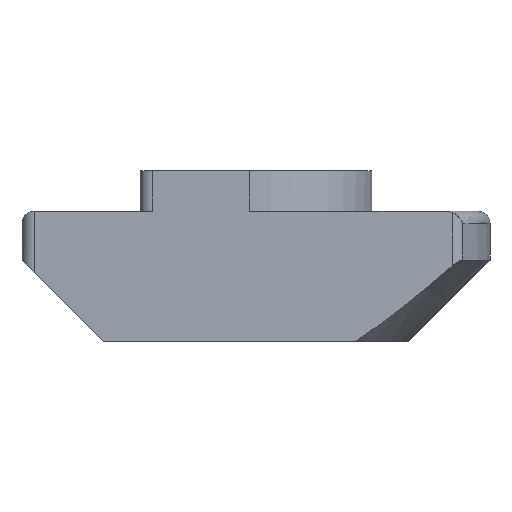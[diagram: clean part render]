
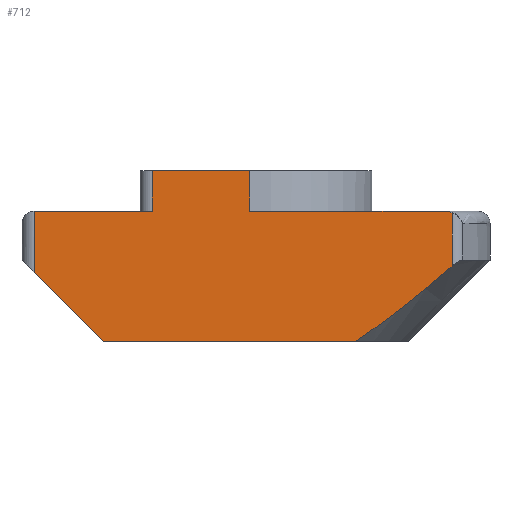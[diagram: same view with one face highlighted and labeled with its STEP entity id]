
A CAD part, front view. The second image highlights one B-rep face of the part: STEP entity #712.
In plain terms, the highlighted planar face has unit normal (0, -1, 0).
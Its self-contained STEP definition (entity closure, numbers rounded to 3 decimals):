
#45 = CARTESIAN_POINT ( 'NONE',  ( 4.817, -2.85, 1.847 ) ) ;
#46 = CARTESIAN_POINT ( 'NONE',  ( 4.436, -2.85, 1.519 ) ) ;
#48 = CARTESIAN_POINT ( 'NONE',  ( 4.05, -2.85, 1.197 ) ) ;
#52 = CARTESIAN_POINT ( 'NONE',  ( 3.262, -2.85, 0.575 ) ) ;
#54 = CARTESIAN_POINT ( 'NONE',  ( 2.86, -2.85, 0.275 ) ) ;
#56 = CARTESIAN_POINT ( 'NONE',  ( 2.437, -2.85, 0. ) ) ;
#69 = CARTESIAN_POINT ( 'NONE',  ( -2.55, -2.85, 4.2 ) ) ;
#74 = DIRECTION ( 'NONE',  ( 0., 0., 1. ) ) ;
#78 = CARTESIAN_POINT ( 'NONE',  ( 4.764, -2.85, 3.187 ) ) ;
#88 = CARTESIAN_POINT ( 'NONE',  ( -0.15, -2.85, 3.2 ) ) ;
#139 = DIRECTION ( 'NONE',  ( 0.707, 0., -0.707 ) ) ;
#145 = CARTESIAN_POINT ( 'NONE',  ( 2.437, -2.85, 0. ) ) ;
#151 = CARTESIAN_POINT ( 'NONE',  ( -5.75, -2.85, 3.2 ) ) ;
#160 = DIRECTION ( 'NONE',  ( 0., 0., -1. ) ) ;
#175 = CARTESIAN_POINT ( 'NONE',  ( -5.75, -2.85, 2. ) ) ;
#194 = CARTESIAN_POINT ( 'NONE',  ( -0.15, -2.85, 4.2 ) ) ;
#205 = CARTESIAN_POINT ( 'NONE',  ( -2.55, -2.85, 3.2 ) ) ;
#236 = CARTESIAN_POINT ( 'NONE',  ( 4.817, -2.85, 3.162 ) ) ;
#252 = DIRECTION ( 'NONE',  ( 1., 0., 0. ) ) ;
#254 = DIRECTION ( 'NONE',  ( 0., 0., 1. ) ) ;
#259 = CARTESIAN_POINT ( 'NONE',  ( -2.55, -2.85, 3.2 ) ) ;
#272 = CARTESIAN_POINT ( 'NONE',  ( -2.85, -2.85, 4.2 ) ) ;
#275 = CARTESIAN_POINT ( 'NONE',  ( 4.817, -2.85, 1.847 ) ) ;
#315 = DIRECTION ( 'NONE',  ( 0., 0., -1. ) ) ;
#324 = DIRECTION ( 'NONE',  ( 1., 0., 0. ) ) ;
#325 = CARTESIAN_POINT ( 'NONE',  ( -5.75, -2.85, 3.2 ) ) ;
#326 = DIRECTION ( 'NONE',  ( 1., 0., 0. ) ) ;
#327 = CARTESIAN_POINT ( 'NONE',  ( -5.75, -2.85, 0. ) ) ;
#340 = PLANE ( 'NONE',  #1131 ) ;
#343 = CARTESIAN_POINT ( 'NONE',  ( -5.45, -2.85, 3.2 ) ) ;
#374 = DIRECTION ( 'NONE',  ( 0., 0., -1. ) ) ;
#375 = DIRECTION ( 'NONE',  ( 0., 1., 0. ) ) ;
#378 = CARTESIAN_POINT ( 'NONE',  ( 4.817, -2.85, 3.2 ) ) ;
#421 = CARTESIAN_POINT ( 'NONE',  ( 4.645, -2.85, 3.2 ) ) ;
#422 = CARTESIAN_POINT ( 'NONE',  ( 4.705, -2.85, 3.2 ) ) ;
#425 = CARTESIAN_POINT ( 'NONE',  ( -5.45, -2.85, 1.7 ) ) ;
#449 = DIRECTION ( 'NONE',  ( 1., 0., 0. ) ) ;
#454 = CARTESIAN_POINT ( 'NONE',  ( -5.75, -2.85, 3.2 ) ) ;
#460 = CARTESIAN_POINT ( 'NONE',  ( 4.817, -2.85, 3.162 ) ) ;
#474 = VERTEX_POINT ( 'NONE', #881 ) ;
#488 = VERTEX_POINT ( 'NONE', #864 ) ;
#499 = LINE ( 'NONE', #327, #1069 ) ;
#501 = VERTEX_POINT ( 'NONE', #861 ) ;
#533 = VERTEX_POINT ( 'NONE', #874 ) ;
#550 = VERTEX_POINT ( 'NONE', #69 ) ;
#559 = EDGE_LOOP ( 'NONE', ( #907, #625, #949, #631, #620, #635, #622, #668, #584, #629, #595 ) ) ;
#562 = VERTEX_POINT ( 'NONE', #275 ) ;
#570 = VERTEX_POINT ( 'NONE', #205 ) ;
#571 = VERTEX_POINT ( 'NONE', #88 ) ;
#573 = VERTEX_POINT ( 'NONE', #425 ) ;
#575 = LINE ( 'NONE', #259, #1089 ) ;
#584 = ORIENTED_EDGE ( 'NONE', *, *, #713, .T. ) ;
#588 = LINE ( 'NONE', #454, #1112 ) ;
#595 = ORIENTED_EDGE ( 'NONE', *, *, #813, .T. ) ;
#606 = VERTEX_POINT ( 'NONE', #145 ) ;
#611 = LINE ( 'NONE', #272, #1133 ) ;
#620 = ORIENTED_EDGE ( 'NONE', *, *, #752, .F. ) ;
#622 = ORIENTED_EDGE ( 'NONE', *, *, #728, .T. ) ;
#625 = ORIENTED_EDGE ( 'NONE', *, *, #760, .T. ) ;
#629 = ORIENTED_EDGE ( 'NONE', *, *, #822, .T. ) ;
#631 = ORIENTED_EDGE ( 'NONE', *, *, #814, .F. ) ;
#632 = LINE ( 'NONE', #343, #1203 ) ;
#635 = ORIENTED_EDGE ( 'NONE', *, *, #729, .F. ) ;
#639 = LINE ( 'NONE', #175, #1113 ) ;
#650 = LINE ( 'NONE', #194, #1072 ) ;
#655 = LINE ( 'NONE', #325, #1099 ) ;
#665 = VERTEX_POINT ( 'NONE', #236 ) ;
#668 = ORIENTED_EDGE ( 'NONE', *, *, #736, .F. ) ;
#674 = LINE ( 'NONE', #378, #1179 ) ;
#694 = FACE_OUTER_BOUND ( 'NONE', #559, .T. ) ;
#710 = B_SPLINE_CURVE_WITH_KNOTS ( 'NONE', 3,
 ( #460, #78, #422, #421 ),
 .UNSPECIFIED., .F., .F.,
 ( 4, 4 ),
 ( 0., 0.001 ),
 .UNSPECIFIED. ) ;
#712 = ADVANCED_FACE ( 'NONE', ( #694 ), #340, .F. ) ;
#713 = EDGE_CURVE ( 'NONE', #474, #573, #632, .T. ) ;
#720 = EDGE_CURVE ( 'NONE', #665, #501, #710, .T. ) ;
#728 = EDGE_CURVE ( 'NONE', #550, #570, #575, .T. ) ;
#729 = EDGE_CURVE ( 'NONE', #550, #533, #611, .T. ) ;
#736 = EDGE_CURVE ( 'NONE', #474, #570, #588, .T. ) ;
#752 = EDGE_CURVE ( 'NONE', #533, #571, #650, .T. ) ;
#760 = EDGE_CURVE ( 'NONE', #562, #665, #674, .T. ) ;
#813 = EDGE_CURVE ( 'NONE', #488, #606, #499, .T. ) ;
#814 = EDGE_CURVE ( 'NONE', #571, #501, #655, .T. ) ;
#822 = EDGE_CURVE ( 'NONE', #573, #488, #639, .T. ) ;
#825 = EDGE_CURVE ( 'NONE', #606, #562, #847, .T. ) ;
#847 = B_SPLINE_CURVE_WITH_KNOTS ( 'NONE', 3,
 ( #56, #54, #52, #48, #46, #45 ),
 .UNSPECIFIED., .F., .F.,
 ( 4, 2, 4 ),
 ( 0., 0.002, 0.003 ),
 .UNSPECIFIED. ) ;
#861 = CARTESIAN_POINT ( 'NONE',  ( 4.645, -2.85, 3.2 ) ) ;
#864 = CARTESIAN_POINT ( 'NONE',  ( -3.75, -2.85, 0. ) ) ;
#874 = CARTESIAN_POINT ( 'NONE',  ( -0.15, -2.85, 4.2 ) ) ;
#881 = CARTESIAN_POINT ( 'NONE',  ( -5.45, -2.85, 3.2 ) ) ;
#907 = ORIENTED_EDGE ( 'NONE', *, *, #825, .T. ) ;
#949 = ORIENTED_EDGE ( 'NONE', *, *, #720, .T. ) ;
#1069 = VECTOR ( 'NONE', #326, 1000. ) ;
#1072 = VECTOR ( 'NONE', #160, 1000. ) ;
#1089 = VECTOR ( 'NONE', #374, 1000. ) ;
#1099 = VECTOR ( 'NONE', #324, 1000. ) ;
#1112 = VECTOR ( 'NONE', #449, 1000. ) ;
#1113 = VECTOR ( 'NONE', #139, 1000. ) ;
#1131 = AXIS2_PLACEMENT_3D ( 'NONE', #151, #375, #74 ) ;
#1133 = VECTOR ( 'NONE', #252, 1000. ) ;
#1179 = VECTOR ( 'NONE', #254, 1000. ) ;
#1203 = VECTOR ( 'NONE', #315, 1000. ) ;
